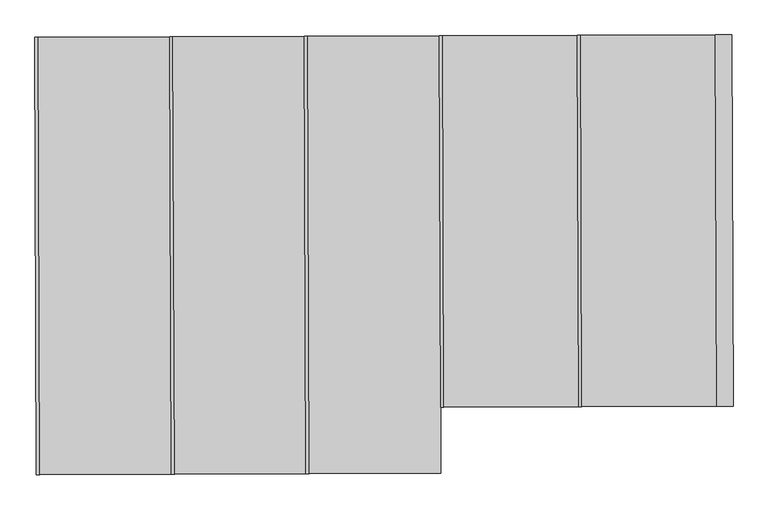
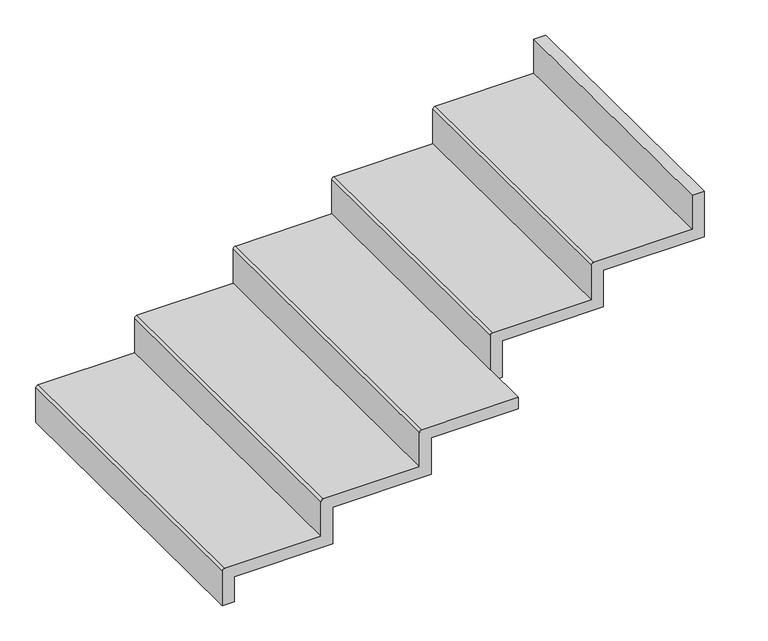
"""IFC4 building model written with IfcOpenShell, lengths in millimetres: stair flight geometry, Huella 50 mm Contrahuella 13 mm."""

from ifc_helpers import new_model, si_unit, frame, origin, place, context, project, spatial, circle_curve, source, transform, mapped, element, save
from ifc_brep_helpers import plane_surface, cylinder_surface, advanced_brep


def stair_flight_a5c20a10(model_context):
    return source(origin(), model_context, "Body", "AdvancedBrep", [
        advanced_brep(
        [(25494.2283246, 2569.3295451, -2180.0), (25494.2283246, 2569.3295451, -2330.0), (25544.2280173, 2569.5048583, -2330.0), (25544.2280173, 2569.5048583, -2220.0), (25954.225497, 2570.942426, -2220.0), (25954.225497, 2570.942426, -2060.0), (26364.2229768, 2572.3799937, -2060.0), (26364.2229768, 2572.3799937, -1900.0), (26724.2207639, 2573.6422483, -1900.0), (26724.2207639, 2573.6422483, -1850.0), (26324.2232226, 2572.2397432, -1850.0), (26314.2232841, 2572.2046806, -1860.0), (26314.2232841, 2572.2046806, -2010.0), (25914.2257429, 2570.8021755, -2010.0), (25904.2258043, 2570.7671129, -2020.0), (25904.2258043, 2570.7671129, -2170.0), (25504.2282632, 2569.3646078, -2170.0), (25539.564688, 3899.4966827, -2330.0), (25489.5649953, 3899.3213696, -2330.0), (25489.5649953, 3899.3213696, -2180.0), (25499.5649339, 3899.3564322, -2170.0), (25899.5624751, 3900.7589373, -2170.0), (25899.5624751, 3900.7589373, -2020.0), (25909.5624136, 3900.7939999, -2010.0), (26309.5599548, 3902.196505, -2010.0), (26309.5599548, 3902.196505, -1860.0), (26319.5598934, 3902.2315676, -1850.0), (26719.5574346, 3903.6340727, -1850.0), (26719.5574346, 3903.6340727, -1700.0), (26729.5573731, 3903.6691353, -1690.0), (27139.5548529, 3905.106703, -1690.0), (27139.5548529, 3905.106703, -1540.0), (27149.5547914, 3905.1417657, -1530.0), (27559.5522666, 3906.5793333, -1530.0), (27559.5522666, 3906.5793333, -1380.0), (27609.5519592, 3906.7546465, -1380.0), (27609.5519592, 3906.7546465, -1580.0), (27189.5545455, 3905.2820162, -1580.0), (27189.5545455, 3905.2820162, -1740.0), (26769.5571272, 3903.8093858, -1740.0), (26769.5571272, 3903.8093858, -1900.0), (26359.5596475, 3902.3718181, -1900.0), (26359.5596475, 3902.3718181, -2060.0), (25949.5621677, 3900.9342504, -2060.0), (25949.5621677, 3900.9342504, -2220.0), (25539.564688, 3899.4966827, -2220.0), (26723.5195113, 2773.6410189, -1850.0), (26723.5195113, 2773.6410189, -1900.0), (26773.519204, 2773.816332, -1900.0), (26773.519204, 2773.816332, -1740.0), (27193.5166223, 2775.2889623, -1740.0), (27193.5166223, 2775.2889623, -1580.0), (27613.5140361, 2776.7615926, -1580.0), (27613.5140361, 2776.7615926, -1380.0), (27563.5143434, 2776.5862795, -1380.0), (27563.5143434, 2776.5862795, -1530.0), (27153.5168682, 2775.1487118, -1530.0), (27143.5169296, 2775.1136492, -1540.0), (27143.5169296, 2775.1136492, -1690.0), (26733.5194499, 2773.6760815, -1690.0), (26723.5195113, 2773.6410189, -1700.0)],
        [
            (0, 1),
            (1, 2),
            (2, 3),
            (3, 4),
            (4, 5),
            (5, 6),
            (6, 7),
            (7, 8),
            (8, 9),
            (9, 10),
            (10, 11, circle_curve(frame((26324.2232226, 2572.2397432, -1860.0), z_axis=(0.0035062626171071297, -0.9999938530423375, 0.0), x_axis=(0.9999938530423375, 0.0035062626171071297, 0.0)), 10.0)),
            (11, 12),
            (12, 13),
            (13, 14, circle_curve(frame((25914.2257429, 2570.8021755, -2020.0), z_axis=(0.003506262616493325, -0.9999938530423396, 0.0), x_axis=(0.9999938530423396, 0.003506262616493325, 0.0)), 10.0)),
            (14, 15),
            (15, 16),
            (16, 0, circle_curve(frame((25504.2282632, 2569.3646078, -2180.0), z_axis=(0.003506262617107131, -0.9999938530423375, 0.0), x_axis=(0.9999938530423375, 0.003506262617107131, 0.0)), 10.0)),
            (17, 18),
            (18, 19),
            (19, 20, circle_curve(frame((25499.5649339, 3899.3564322, -2180.0), z_axis=(-0.003506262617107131, 0.9999938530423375, 0.0), x_axis=(0.9999938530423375, 0.003506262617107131, 0.0)), 10.0)),
            (20, 21),
            (21, 22),
            (22, 23, circle_curve(frame((25909.5624136, 3900.7939999, -2020.0), z_axis=(-0.003506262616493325, 0.9999938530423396, 0.0), x_axis=(0.9999938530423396, 0.003506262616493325, 0.0)), 10.0)),
            (23, 24),
            (24, 25),
            (25, 26, circle_curve(frame((26319.5598934, 3902.2315676, -1860.0), z_axis=(-0.0035062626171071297, 0.9999938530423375, 0.0), x_axis=(0.9999938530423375, 0.0035062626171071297, 0.0)), 10.0)),
            (26, 27),
            (27, 28),
            (28, 29, circle_curve(frame((26729.5573731, 3903.6691353, -1700.0), z_axis=(-0.003506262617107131, 0.9999938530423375, 0.0), x_axis=(0.9999938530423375, 0.003506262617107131, 0.0)), 10.0)),
            (29, 30),
            (30, 31),
            (31, 32, circle_curve(frame((27149.5547914, 3905.1417657, -1540.0), z_axis=(-0.003506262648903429, 0.999993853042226, 0.0), x_axis=(0.999993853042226, 0.003506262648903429, 0.0)), 10.0)),
            (32, 33),
            (33, 34),
            (34, 35),
            (35, 36),
            (36, 37),
            (37, 38),
            (38, 39),
            (39, 40),
            (40, 41),
            (41, 42),
            (42, 43),
            (43, 44),
            (44, 45),
            (45, 17),
            (0, 19),
            (18, 1),
            (17, 2),
            (45, 3),
            (20, 16),
            (15, 21),
            (44, 4),
            (14, 22),
            (43, 5),
            (23, 13),
            (12, 24),
            (42, 6),
            (11, 25),
            (41, 7),
            (26, 10),
            (9, 46),
            (46, 27),
            (47, 8),
            (40, 48),
            (48, 47),
            (47, 46),
            (48, 49),
            (49, 50),
            (50, 51),
            (51, 52),
            (52, 53),
            (53, 54),
            (54, 55),
            (55, 56),
            (56, 57, circle_curve(frame((27153.5168682, 2775.1487118, -1540.0), z_axis=(0.003506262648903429, -0.999993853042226, 0.0), x_axis=(0.999993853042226, 0.003506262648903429, 0.0)), 10.0)),
            (57, 58),
            (58, 59),
            (59, 60, circle_curve(frame((26733.5194499, 2773.6760815, -1700.0), z_axis=(0.003506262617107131, -0.9999938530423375, 0.0), x_axis=(0.9999938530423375, 0.003506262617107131, 0.0)), 10.0)),
            (60, 46),
            (60, 28),
            (39, 49),
            (29, 59),
            (58, 30),
            (38, 50),
            (57, 31),
            (37, 51),
            (54, 34),
            (33, 55),
            (36, 52),
            (35, 53),
            (32, 56),
        ],
        [
            plane_surface(frame((25504.2282632, 2569.3646078, -2170.0), z_axis=(0.0035062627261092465, -0.9999938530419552, 0.0), x_axis=(0.9999938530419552, 0.0035062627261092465, 0.0))),
            plane_surface(frame((25499.5649339, 3899.3564322, -2170.0), z_axis=(-0.0035062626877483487, 0.9999938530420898, 0.0), x_axis=(0.9999938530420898, 0.0035062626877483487, 0.0))),
            plane_surface(frame((25494.2283246, 2569.3295451, -2180.0), z_axis=(-0.9999938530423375, -0.003506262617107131, 0.0), x_axis=(-0.003506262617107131, 0.9999938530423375, 0.0))),
            plane_surface(frame((25494.2283246, 2569.3295451, -2330.0), z_axis=(0.0, 0.0, -1.0000000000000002), x_axis=(-0.003506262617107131, 0.9999938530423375, 0.0))),
            plane_surface(frame((25544.2280173, 2569.5048583, -2330.0), z_axis=(0.9999938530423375, 0.0035062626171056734, 0.0), x_axis=(-0.0035062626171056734, 0.9999938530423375, 0.0))),
            plane_surface(frame((24199.0366855, 3894.7964105, -2170.0), z_axis=(0.0, 0.0, 1.0000000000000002), x_axis=(-0.9999938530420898, -0.0035062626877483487, 0.0))),
            plane_surface(frame((24199.0366855, 3894.7964105, -2220.0), z_axis=(0.0, 0.0, -1.0000000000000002), x_axis=(0.9999938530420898, 0.0035062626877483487, 0.0))),
            plane_surface(frame((25904.2258043, 2570.7671129, -2020.0), z_axis=(-0.9999938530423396, -0.00350626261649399, 0.0), x_axis=(-0.00350626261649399, 0.9999938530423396, 0.0))),
            plane_surface(frame((25954.225497, 2570.942426, -2220.0), z_axis=(0.9999938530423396, 0.0035062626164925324, 0.0), x_axis=(-0.0035062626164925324, 0.9999938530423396, 0.0))),
            plane_surface(frame((24199.0366855, 3894.7964105, -2010.0), z_axis=(0.0, 0.0, 1.0000000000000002), x_axis=(-0.9999938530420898, -0.0035062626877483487, 0.0))),
            plane_surface(frame((24199.0366855, 3894.7964105, -2060.0), z_axis=(0.0, 0.0, -1.0000000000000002), x_axis=(0.9999938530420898, 0.0035062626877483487, 0.0))),
            plane_surface(frame((26314.2232841, 2572.2046806, -1860.0), z_axis=(-0.9999938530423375, -0.0035062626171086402, 0.0), x_axis=(-0.0035062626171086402, 0.9999938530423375, 0.0))),
            plane_surface(frame((26364.2229768, 2572.3799937, -2060.0), z_axis=(0.9999938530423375, 0.003506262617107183, 0.0), x_axis=(-0.003506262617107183, 0.9999938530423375, 0.0))),
            plane_surface(frame((24199.0366855, 3894.7964105, -1850.0), z_axis=(0.0, 0.0, 1.0000000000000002), x_axis=(-0.9999938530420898, -0.0035062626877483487, 0.0))),
            plane_surface(frame((24199.0366855, 3894.7964105, -1900.0), z_axis=(0.0, 0.0, -1.0000000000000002), x_axis=(0.9999938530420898, 0.0035062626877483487, 0.0))),
            plane_surface(frame((26724.2207639, 2573.6422483, -1850.0), z_axis=(0.9999938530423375, 0.003506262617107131, 0.0), x_axis=(0.0, 0.0, -1.0))),
            plane_surface(frame((26733.5194499, 2773.6760815, -1690.0), z_axis=(0.003506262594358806, -0.9999938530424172, 0.0), x_axis=(0.9999938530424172, 0.003506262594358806, 0.0))),
            plane_surface(frame((26723.5195113, 2773.6410189, -1700.0), z_axis=(-0.9999938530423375, -0.0035062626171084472, 0.0), x_axis=(-0.0035062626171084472, 0.9999938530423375, 0.0))),
            plane_surface(frame((26773.519204, 2773.816332, -1900.0), z_axis=(0.9999938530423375, 0.00350626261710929, 0.0), x_axis=(-0.00350626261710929, 0.9999938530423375, 0.0))),
            plane_surface(frame((24199.0366855, 3894.7964105, -1690.0), z_axis=(0.0, 0.0, 1.0000000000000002), x_axis=(-0.9999938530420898, -0.0035062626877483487, 0.0))),
            plane_surface(frame((24199.0366855, 3894.7964105, -1740.0), z_axis=(0.0, 0.0, -1.0000000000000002), x_axis=(0.9999938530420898, 0.0035062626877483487, 0.0))),
            plane_surface(frame((27143.5169296, 2775.1136492, -1540.0), z_axis=(-0.9999938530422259, -0.003506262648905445, 0.0), x_axis=(-0.003506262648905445, 0.9999938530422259, 0.0))),
            plane_surface(frame((27193.5166223, 2775.2889623, -1740.0), z_axis=(0.9999938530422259, 0.0035062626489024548, 0.0), x_axis=(-0.0035062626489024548, 0.9999938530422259, 0.0))),
            plane_surface(frame((27563.5143434, 2776.5862795, -1380.0), z_axis=(-0.9999938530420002, -0.003506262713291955, 0.0), x_axis=(-0.003506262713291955, 0.9999938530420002, 0.0))),
            plane_surface(frame((27563.5143434, 2776.5862795, -1580.0), z_axis=(0.0, 0.0, -1.0), x_axis=(-0.003506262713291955, 0.9999938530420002, 0.0))),
            plane_surface(frame((27613.5140361, 2776.7615926, -1580.0), z_axis=(0.9999938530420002, 0.0035062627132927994, 0.0), x_axis=(-0.0035062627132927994, 0.9999938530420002, 0.0))),
            plane_surface(frame((27613.5140361, 2776.7615926, -1380.0), z_axis=(0.0, 0.0, 1.0), x_axis=(-0.0035062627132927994, 0.9999938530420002, 0.0))),
            plane_surface(frame((24199.0366855, 3894.7964105, -1530.0), z_axis=(0.0, 0.0, 1.0000000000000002), x_axis=(-0.9999938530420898, -0.0035062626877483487, 0.0))),
            cylinder_surface(frame((25504.2282632, 2569.3646078, -2180.0), z_axis=(0.003506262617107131, -0.9999938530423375, 0.0), x_axis=(0.9999938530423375, 0.003506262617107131, 0.0)), 10.0),
            cylinder_surface(frame((25914.2257429, 2570.8021755, -2020.0), z_axis=(0.003506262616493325, -0.9999938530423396, 0.0), x_axis=(0.9999938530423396, 0.003506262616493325, 0.0)), 10.0),
            cylinder_surface(frame((26324.2232226, 2572.2397432, -1860.0), z_axis=(0.0035062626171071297, -0.9999938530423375, 0.0), x_axis=(0.9999938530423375, 0.0035062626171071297, 0.0)), 10.0),
            cylinder_surface(frame((26733.5194499, 2773.6760815, -1700.0), z_axis=(0.003506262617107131, -0.9999938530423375, 0.0), x_axis=(0.9999938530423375, 0.003506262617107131, 0.0)), 10.0),
            cylinder_surface(frame((27153.5168682, 2775.1487118, -1540.0), z_axis=(0.003506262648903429, -0.999993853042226, 0.0), x_axis=(0.999993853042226, 0.003506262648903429, 0.0)), 10.0),
        ],
        [
            (0, [[1, 2, 3, 4, 5, 6, 7, 8, 9, 10, 11, 12, 13, 14, 15, 16, 17]]),
            (1, [[18, 19, 20, 21, 22, 23, 24, 25, 26, 27, 28, 29, 30, 31, 32, 33, 34, 35, 36, 37, 38, 39, 40, 41, 42, 43, 44, 45, 46]]),
            (2, [[-1, 47, -19, 48]]),
            (3, [[-2, -48, -18, 49]]),
            (4, [[-49, -46, 50, -3]]),
            (5, [[-21, 51, -16, 52]]),
            (6, [[-50, -45, 53, -4]]),
            (7, [[-22, -52, -15, 54]]),
            (8, [[-53, -44, 55, -5]]),
            (9, [[-24, 56, -13, 57]]),
            (10, [[-55, -43, 58, -6]]),
            (11, [[-25, -57, -12, 59]]),
            (12, [[-58, -42, 60, -7]]),
            (13, [[-27, 61, -10, 62, 63]]),
            (14, [[64, -8, -60, -41, 65, 66]]),
            (15, [[-62, -9, -64, 67]]),
            (16, [[-66, 68, 69, 70, 71, 72, 73, 74, 75, 76, 77, 78, 79, 80, -67]]),
            (17, [[-28, -63, -80, 81]]),
            (18, [[-65, -40, 82, -68]]),
            (19, [[-30, 83, -78, 84]]),
            (20, [[-82, -39, 85, -69]]),
            (21, [[-31, -84, -77, 86]]),
            (22, [[-85, -38, 87, -70]]),
            (23, [[88, -34, 89, -74]]),
            (24, [[-71, -87, -37, 90]]),
            (25, [[-72, -90, -36, 91]]),
            (26, [[-73, -91, -35, -88]]),
            (27, [[-33, 92, -75, -89]]),
            (28, [[-51, -20, -47, -17]]),
            (29, [[-56, -23, -54, -14]]),
            (30, [[-61, -26, -59, -11]]),
            (31, [[-83, -29, -81, -79]]),
            (32, [[-92, -32, -86, -76]]),
        ],
    ),
    ])


if __name__ == "__main__":
    model = new_model("IFC4")
    model_context = context("Model", 3, world=origin())
    ifc_project = project(units=[si_unit("LENGTHUNIT", "METRE", prefix="MILLI")], contexts=[model_context])
    site = spatial("IfcSite", under=ifc_project)
    building = spatial("IfcBuilding", under=site)
    placement = place(None, origin())
    stair_flight_shape = stair_flight_a5c20a10(model_context)
    element("IfcStairFlight", 1, ObjectType="Huella 50 mm Contrahuella 13 mm", at=placement, inside=building, context=model_context, shape_type="MappedRepresentation", body=[
        mapped(stair_flight_shape, transform((0.0, 0.0, 0.0), x_axis=(1.0, 0.0, 0.0), y_axis=(0.0, 1.0, 0.0), z_axis=(0.0, 0.0, 1.0))),
    ])
    save(model, "model.ifc")
